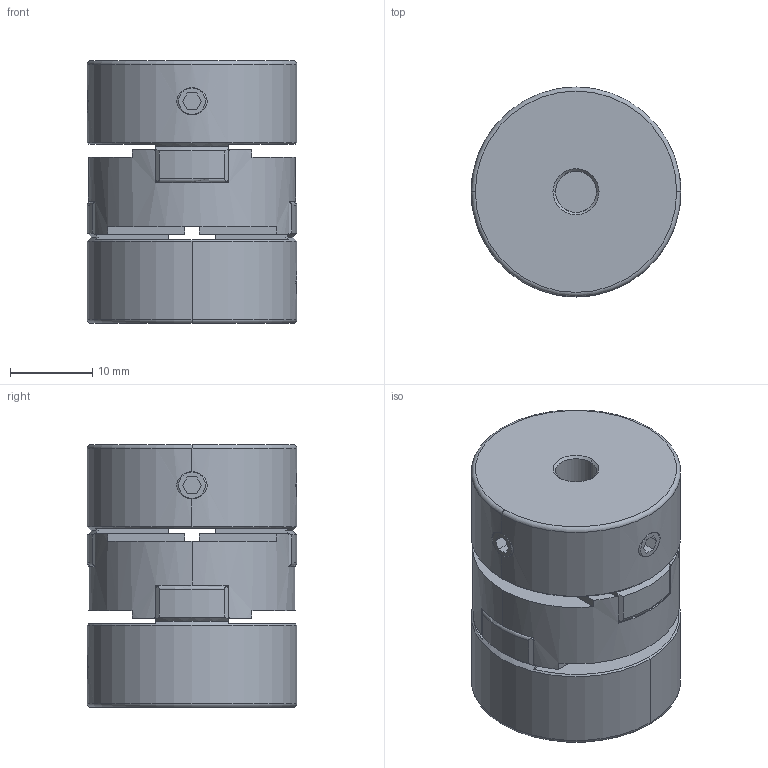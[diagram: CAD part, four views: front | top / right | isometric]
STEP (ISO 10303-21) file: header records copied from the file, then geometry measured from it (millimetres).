
FILE_DESCRIPTION (( 'STEP AP203' ), '1' );
FILE_NAME ('SOH-25SS-5X10_203.STEP', '2013-01-24T01:34:31', ( '' ), ( '' ), 'SwSTEP 2.0', 'SolidWorks 2012', '' );
FILE_SCHEMA (( 'CONFIG_CONTROL_DESIGN' ));
Length unit declared in the file: millimetre
Products named in the file (1): SOH-25SS-5X10_203
Bounding box: 25.5 x 25.5 x 32 mm (x, y, z)
Volume: 13133.7 mm3; surface area: 6204.4 mm2
Topology: 1 solids, 1 shells, 185 faces, 540 edges, 349 vertices
Faces by surface type: plane 94, cylinder 51, cone 20, torus 12, sphere 8
Entity records: 6744 total; most frequent: CARTESIAN_POINT 1795, ORIENTED_EDGE 1080, DIRECTION 965, EDGE_CURVE 540, VERTEX_POINT 349, AXIS2_PLACEMENT_3D 343, LINE 279, VECTOR 279
